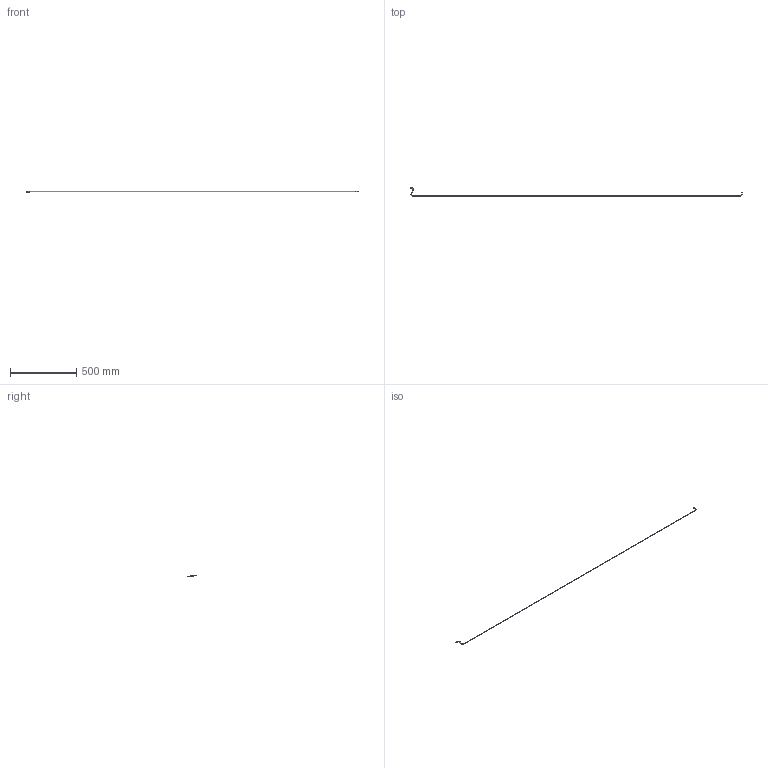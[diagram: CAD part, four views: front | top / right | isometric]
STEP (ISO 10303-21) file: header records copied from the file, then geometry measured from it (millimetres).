
FILE_DESCRIPTION(/* description */ (''),/* implementation_level */ '2;1');
FILE_NAME(/* name */ 'CMS.BTL.00000073.stp',/* time_stamp */ '2023-10-24T15:07:07+02:00',/* author */ (''),/* organization */ (''),/* preprocessor_version */ 'ST-DEVELOPER v19.4',/* originating_system */ 'SIEMENS PLM Software NX2306.5001',/* authorisation */ '');
FILE_SCHEMA (('AP203_CONFIGURATION_CONTROLLED_3D_DESIGN_OF_MECHANICAL_PARTS_AND_ASSEMBLIES_MIM_LF { 1 0 10303 403 2 1 2}'));
Length unit declared in the file: millimetre
Products named in the file (1): CMS.BTL.00000073_objects
Bounding box: 2496.6 x 66 x 11.5 mm (x, y, z)
Volume: 6594.9 mm3; surface area: 52764 mm2
Topology: 1 solids, 1 shells, 16 faces, 36 edges, 22 vertices
Faces by surface type: cylinder 8, torus 6, plane 2
Full cylindrical faces by diameter (mm): 3 x4, 3.5 x4
Entity records: 414 total; most frequent: DIRECTION 66, CARTESIAN_POINT 49, AXIS2_PLACEMENT_3D 33, FACE_BOUND 32, EDGE_LOOP 32, ORIENTED_EDGE 32, ADVANCED_FACE 16, VERTEX_POINT 16
